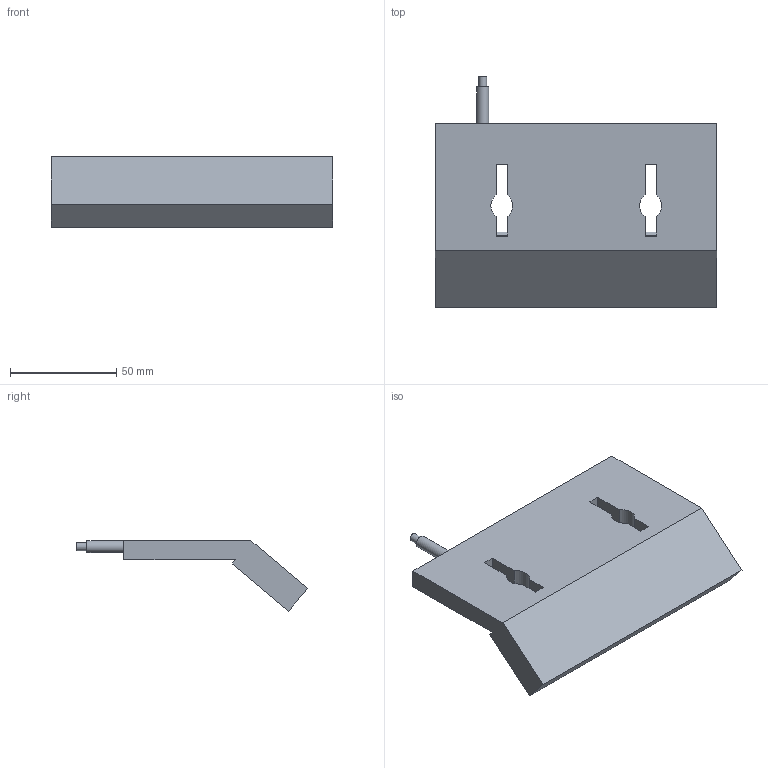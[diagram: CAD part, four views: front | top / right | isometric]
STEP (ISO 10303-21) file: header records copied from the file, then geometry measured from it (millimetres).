
FILE_DESCRIPTION( ( 'STEP AP214' ), '1' );
FILE_NAME( 'D:/Yug/2021/Delta/Office_furniture_systems/QC/9277961.stp', '2021-03-26T10:32:56', ( '' ), ( '' ), ' ', 'PARTsolutions', ' ' );
FILE_SCHEMA( ( 'AUTOMOTIVE_DESIGN { 1 0 10303 214 1 1 1 1 }' ) );
Length unit declared in the file: millimetre
Products named in the file (1): _9277961
Bounding box: 132.5 x 108.95 x 33.24 mm (x, y, z)
Volume: 128687.4 mm3; surface area: 30496.9 mm2
Topology: 1 solids, 1 shells, 31 faces, 84 edges, 54 vertices
Faces by surface type: plane 25, cylinder 6
Full cylindrical faces by diameter (mm): 3.8 x1, 5.6 x1
Entity records: 1224 total; most frequent: CARTESIAN_POINT 168, ORIENTED_EDGE 164, DIRECTION 158, EDGE_CURVE 82, LINE 70, VECTOR 70, VERTEX_POINT 54, AXIS2_PLACEMENT_3D 44
